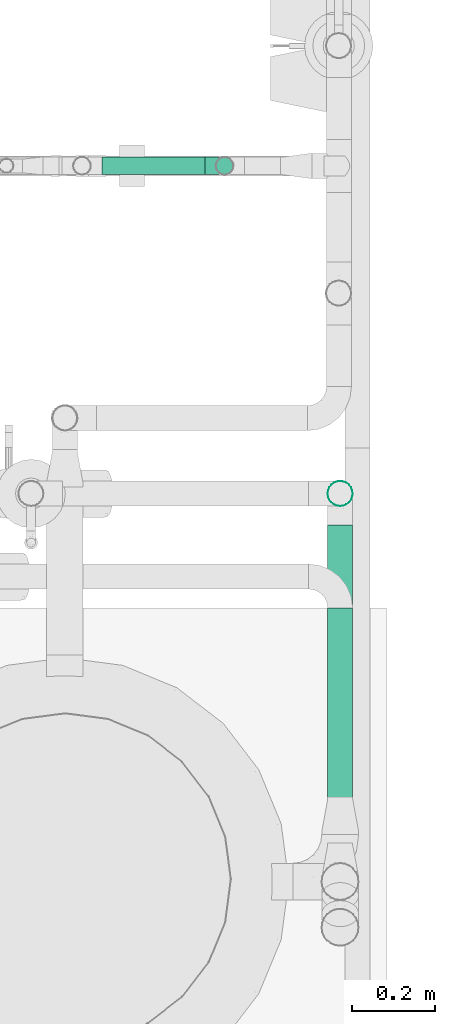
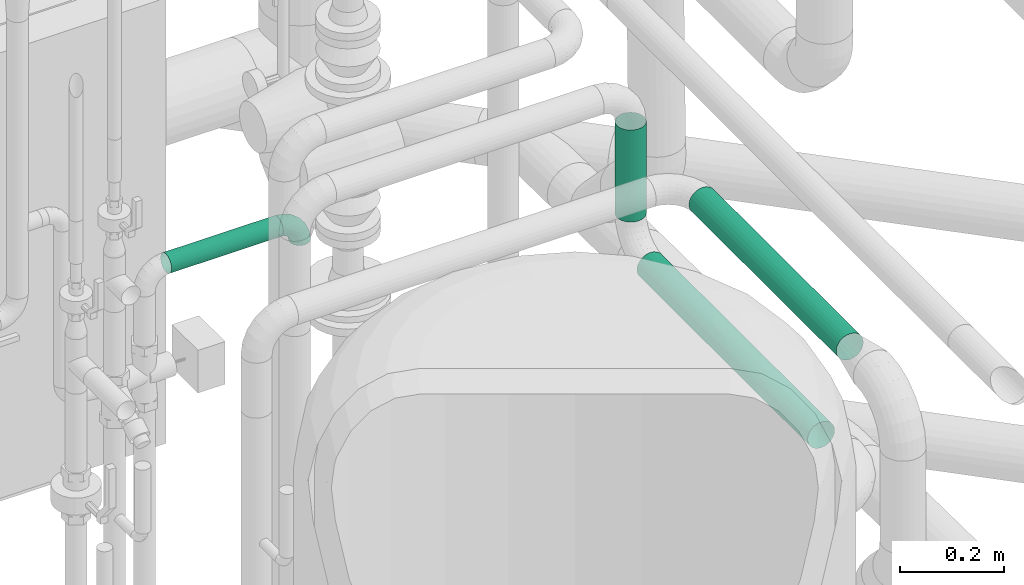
# One storey, part 284 of 374: 5 flow segments.
"""IFC2X3 building model written with IfcOpenShell, lengths in metres."""

from ifc_helpers import new_model, si_unit, direction, origin, place, context, subcontext, project, spatial, open_shell, surface_model, source, transform, mapped, element, save


model = new_model("IFC2X3")

# Units and contexts
model_context = context("Model", 3, precision=1e-05, world=origin(), true_north=direction((-0.4480736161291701, 0.8939966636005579)))
body_context = subcontext(model_context, "Body", "Model", "MODEL_VIEW")
ifc_project = project(units=[si_unit("LENGTHUNIT", "METRE"), si_unit("AREAUNIT", "SQUARE_METRE"), si_unit("VOLUMEUNIT", "CUBIC_METRE"), si_unit("PLANEANGLEUNIT", "RADIAN"), si_unit("THERMODYNAMICTEMPERATUREUNIT", "KELVIN"), si_unit("MASSUNIT", "GRAM", prefix="KILO"), si_unit("TIMEUNIT", "SECOND")], contexts=[model_context])

# Site, building, storey
site_placement = place(None, origin())
site = spatial("IfcSite", under=ifc_project, at=site_placement, Name="Site 1", CompositionType="ELEMENT")
building_placement = place(site_placement, origin())
building = spatial("IfcBuilding", under=site, at=building_placement, Name="Undefined", CompositionType="ELEMENT")
storey_placement = place(building_placement, origin())
storey = spatial("IfcBuildingStorey", under=building, at=storey_placement, Name="Rez de chauss\x8ee", CompositionType="ELEMENT", Elevation=0.0)

# Flow segments
shared_shape_1 = source(origin(), body_context, "Body", "SurfaceModel", [
    surface_model("IfcFaceBasedSurfaceModel", [(0.0, 0.007870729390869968, 7.105427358e-15), (0.0, 0.0, 0.0), (0.21585728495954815, 0.0, 7.105427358e-15), (0.21585728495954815, 0.007870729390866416, 7.105427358e-15), (0.0, -0.00760254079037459, -0.0020370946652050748), (0.21585728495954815, -0.007602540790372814, -0.00203709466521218), (0.0, -0.01441879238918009, -0.00597245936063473), (0.21585728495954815, -0.01441879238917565, -0.005972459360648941), (0.0, -0.019984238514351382, -0.011537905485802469), (0.21585728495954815, -0.019984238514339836, -0.011537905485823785), (0.0, -0.023919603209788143, -0.018354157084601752), (0.21585728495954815, -0.02391960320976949, -0.018354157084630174), (0.0, -0.025956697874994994, -0.025956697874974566), (0.21585728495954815, -0.025956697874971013, -0.025956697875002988), (0.0, -0.025956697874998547, -0.03382742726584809), (0.21585728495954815, -0.02595669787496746, -0.0338274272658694), (0.0, -0.02391960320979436, -0.041429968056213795), (0.21585728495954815, -0.02391960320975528, -0.04142996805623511), (0.0, -0.019984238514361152, -0.04824621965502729), (0.21585728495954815, -0.01998423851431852, -0.048246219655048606), (0.0, -0.01441879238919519, -0.05381166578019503), (0.21585728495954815, -0.014418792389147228, -0.053811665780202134), (0.0, -0.007602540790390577, -0.05774703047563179), (0.21585728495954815, -0.007602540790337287, -0.05774703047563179), (0.0, -1.7763568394e-14, -0.05978412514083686), (0.21585728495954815, 3.5527136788e-14, -0.05978412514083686), (0.0, 0.007870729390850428, -0.05978412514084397), (0.21585728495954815, 0.007870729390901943, -0.05978412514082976), (0.0, 0.015473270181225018, -0.057747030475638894), (0.21585728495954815, 0.015473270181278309, -0.05774703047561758), (0.0, 0.022289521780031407, -0.05381166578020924), (0.21585728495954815, 0.022289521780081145, -0.05381166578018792), (0.0, 0.027854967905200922, -0.048246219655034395), (0.21585728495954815, 0.02785496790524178, -0.04824621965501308), (0.0, 0.031790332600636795, -0.04142996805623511), (0.21585728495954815, 0.031790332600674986, -0.04142996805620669), (0.0, 0.033827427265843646, -0.0338274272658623), (0.21585728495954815, 0.03382742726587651, -0.033827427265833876), (0.0, 0.0338274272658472, -0.025956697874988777), (0.21585728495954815, 0.0338274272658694, -0.02595669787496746), (0.0, 0.0317903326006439, -0.01835415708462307), (0.21585728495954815, 0.031790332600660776, -0.018354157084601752), (0.0, 0.02785496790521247, -0.01153790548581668), (0.21585728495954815, 0.027854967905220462, -0.011537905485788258), (0.0, 0.022289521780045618, -0.005972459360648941), (0.21585728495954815, 0.022289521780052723, -0.005972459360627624), (0.0, 0.015473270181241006, -0.0020370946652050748), (0.21585728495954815, 0.015473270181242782, -0.002037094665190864)], [open_shell([[[0, 1, 2, 3]], [[1, 4, 5, 2]], [[4, 6, 7, 5]], [[6, 8, 9, 7]], [[8, 10, 11, 9]], [[10, 12, 13, 11]], [[12, 14, 15, 13]], [[14, 16, 17, 15]], [[16, 18, 19, 17]], [[18, 20, 21, 19]], [[20, 22, 23, 21]], [[22, 24, 25, 23]], [[24, 26, 27, 25]], [[26, 28, 29, 27]], [[28, 30, 31, 29]], [[30, 32, 33, 31]], [[32, 34, 35, 33]], [[34, 36, 37, 35]], [[36, 38, 39, 37]], [[38, 40, 41, 39]], [[40, 42, 43, 41]], [[42, 44, 45, 43]], [[44, 46, 47, 45]], [[46, 0, 3, 47]]])]),
])
flow_segment_1_placement = place(storey_placement, origin())
element("IfcFlowSegment", 1, at=flow_segment_1_placement, inside=storey, Name="Tube acier d'après DIN 2448", ObjectType="Tube acier d'après DIN 2448", context=body_context, shape_type="MappedRepresentation", body=[
    mapped(shared_shape_1, transform((55.03195322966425, 10.910233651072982, 1.983641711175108), x_axis=(0.0, 0.0, -1.0), y_axis=(0.13052619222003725, 0.9914448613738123, 0.0), z_axis=(0.9914448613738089, -0.13052619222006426, 0.0))),
])
shared_shape_2 = source(origin(), body_context, "Body", "SurfaceModel", [
    surface_model("IfcFaceBasedSurfaceModel", [(0.0, 0.007870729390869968, 7.105427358e-15), (0.0, 0.0, 0.0), (0.6557215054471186, 0.0, 0.0), (0.6557215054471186, 0.00787072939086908, 7.105427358e-15), (0.0, -0.00760254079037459, -0.0020370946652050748), (0.6557215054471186, -0.007602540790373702, -0.0020370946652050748), (0.0, -0.01441879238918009, -0.00597245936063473), (0.6557215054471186, -0.014418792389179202, -0.005972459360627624), (0.0, -0.019984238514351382, -0.011537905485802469), (0.6557215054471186, -0.019984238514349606, -0.011537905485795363), (0.0, -0.023919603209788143, -0.018354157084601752), (0.6557215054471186, -0.023919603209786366, -0.018354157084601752), (0.0, -0.025956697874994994, -0.025956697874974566), (0.6557215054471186, -0.025956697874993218, -0.02595669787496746), (0.0, -0.025956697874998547, -0.03382742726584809), (0.6557215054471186, -0.025956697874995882, -0.03382742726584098), (0.0, -0.02391960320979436, -0.041429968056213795), (0.6557215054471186, -0.023919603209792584, -0.04142996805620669), (0.0, -0.019984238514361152, -0.04824621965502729), (0.6557215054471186, -0.019984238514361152, -0.048246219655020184), (0.0, -0.01441879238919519, -0.05381166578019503), (0.6557215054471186, -0.014418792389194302, -0.05381166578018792), (0.0, -0.007602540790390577, -0.05774703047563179), (0.6557215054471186, -0.007602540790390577, -0.05774703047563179), (0.0, -1.7763568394e-14, -0.05978412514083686), (0.6557215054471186, -1.7763568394e-14, -0.05978412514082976), (0.0, 0.007870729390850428, -0.05978412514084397), (0.6557215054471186, 0.007870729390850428, -0.05978412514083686), (0.0, 0.015473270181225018, -0.057747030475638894), (0.6557215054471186, 0.015473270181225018, -0.05774703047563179), (0.0, 0.022289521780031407, -0.05381166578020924), (0.6557215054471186, 0.022289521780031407, -0.053811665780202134), (0.0, 0.027854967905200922, -0.048246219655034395), (0.6557215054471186, 0.02785496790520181, -0.04824621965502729), (0.0, 0.031790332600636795, -0.04142996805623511), (0.6557215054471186, 0.03179033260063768, -0.04142996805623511), (0.0, 0.033827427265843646, -0.0338274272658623), (0.6557215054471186, 0.03382742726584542, -0.03382742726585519), (0.0, 0.0338274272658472, -0.025956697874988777), (0.6557215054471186, 0.0338274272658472, -0.025956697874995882), (0.0, 0.0317903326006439, -0.01835415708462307), (0.6557215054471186, 0.03179033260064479, -0.018354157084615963), (0.0, 0.02785496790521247, -0.01153790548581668), (0.6557215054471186, 0.02785496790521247, -0.011537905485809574), (0.0, 0.022289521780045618, -0.005972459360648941), (0.6557215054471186, 0.022289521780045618, -0.005972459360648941), (0.0, 0.015473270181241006, -0.0020370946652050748), (0.6557215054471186, 0.015473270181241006, -0.0020370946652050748)], [open_shell([[[0, 1, 2, 3]], [[1, 4, 5, 2]], [[4, 6, 7, 5]], [[6, 8, 9, 7]], [[8, 10, 11, 9]], [[10, 12, 13, 11]], [[12, 14, 15, 13]], [[14, 16, 17, 15]], [[16, 18, 19, 17]], [[18, 20, 21, 19]], [[20, 22, 23, 21]], [[22, 24, 25, 23]], [[24, 26, 27, 25]], [[26, 28, 29, 27]], [[28, 30, 31, 29]], [[30, 32, 33, 31]], [[32, 34, 35, 33]], [[34, 36, 37, 35]], [[36, 38, 39, 37]], [[38, 40, 41, 39]], [[40, 42, 43, 41]], [[42, 44, 45, 43]], [[44, 46, 47, 45]], [[46, 0, 3, 47]]])]),
])
flow_segment_2_placement = place(storey_placement, origin())
element("IfcFlowSegment", 2, at=flow_segment_2_placement, inside=storey, Name="Tube acier d'après DIN 2448", ObjectType="Tube acier d'après DIN 2448", context=body_context, shape_type="MappedRepresentation", body=[
    mapped(shared_shape_2, transform((54.97370790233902, 10.842037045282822, 1.683981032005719), x_axis=(0.0, -1.0, 0.0), y_axis=(-0.13052619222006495, 0.0, 0.9914448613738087), z_axis=(-0.9914448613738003, 0.0, -0.13052619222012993))),
])
shared_shape_3 = source(origin(), body_context, "Body", "SurfaceModel", [
    surface_model("IfcFaceBasedSurfaceModel", [(0.0, 0.007870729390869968, 7.105427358e-15), (0.0, 0.0, 0.0), (0.5660378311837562, 1.776356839e-15, 0.0), (0.5660378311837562, 0.007870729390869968, 7.105427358e-15), (0.0, -0.00760254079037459, -0.0020370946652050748), (0.5660378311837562, -0.007602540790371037, -0.00203709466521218), (0.0, -0.01441879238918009, -0.00597245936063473), (0.5660378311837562, -0.01441879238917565, -0.005972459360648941), (0.0, -0.019984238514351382, -0.011537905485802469), (0.5660378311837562, -0.019984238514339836, -0.01153790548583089), (0.0, -0.023919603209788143, -0.018354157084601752), (0.5660378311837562, -0.02391960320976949, -0.018354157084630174), (0.0, -0.025956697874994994, -0.025956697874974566), (0.5660378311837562, -0.025956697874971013, -0.025956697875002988), (0.0, -0.025956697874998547, -0.03382742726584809), (0.5660378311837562, -0.025956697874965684, -0.0338274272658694), (0.0, -0.02391960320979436, -0.041429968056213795), (0.5660378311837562, -0.02391960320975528, -0.04142996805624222), (0.0, -0.019984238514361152, -0.04824621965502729), (0.5660378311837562, -0.01998423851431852, -0.048246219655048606), (0.0, -0.01441879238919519, -0.05381166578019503), (0.5660378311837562, -0.014418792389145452, -0.053811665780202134), (0.0, -0.007602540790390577, -0.05774703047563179), (0.5660378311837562, -0.007602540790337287, -0.057747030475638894), (0.0, -1.7763568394e-14, -0.05978412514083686), (0.5660378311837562, 3.5527136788e-14, -0.05978412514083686), (0.0, 0.007870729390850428, -0.05978412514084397), (0.5660378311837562, 0.007870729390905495, -0.05978412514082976), (0.0, 0.015473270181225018, -0.057747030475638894), (0.5660378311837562, 0.015473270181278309, -0.05774703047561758), (0.0, 0.022289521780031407, -0.05381166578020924), (0.5660378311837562, 0.02228952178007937, -0.05381166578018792), (0.0, 0.027854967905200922, -0.048246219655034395), (0.5660378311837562, 0.02785496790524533, -0.04824621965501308), (0.0, 0.031790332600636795, -0.04142996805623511), (0.5660378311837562, 0.031790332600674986, -0.04142996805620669), (0.0, 0.033827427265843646, -0.0338274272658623), (0.5660378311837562, 0.03382742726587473, -0.03382742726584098), (0.0, 0.0338274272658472, -0.025956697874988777), (0.5660378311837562, 0.03382742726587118, -0.02595669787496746), (0.0, 0.0317903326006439, -0.01835415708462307), (0.5660378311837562, 0.031790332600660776, -0.018354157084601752), (0.0, 0.02785496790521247, -0.01153790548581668), (0.5660378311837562, 0.02785496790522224, -0.011537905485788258), (0.0, 0.022289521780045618, -0.005972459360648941), (0.5660378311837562, 0.022289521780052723, -0.005972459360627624), (0.0, 0.015473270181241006, -0.0020370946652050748), (0.5660378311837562, 0.015473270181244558, -0.002037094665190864)], [open_shell([[[0, 1, 2, 3]], [[1, 4, 5, 2]], [[4, 6, 7, 5]], [[6, 8, 9, 7]], [[8, 10, 11, 9]], [[10, 12, 13, 11]], [[12, 14, 15, 13]], [[14, 16, 17, 15]], [[16, 18, 19, 17]], [[18, 20, 21, 19]], [[20, 22, 23, 21]], [[22, 24, 25, 23]], [[24, 26, 27, 25]], [[26, 28, 29, 27]], [[28, 30, 31, 29]], [[30, 32, 33, 31]], [[32, 34, 35, 33]], [[34, 36, 37, 35]], [[36, 38, 39, 37]], [[38, 40, 41, 39]], [[40, 42, 43, 41]], [[42, 44, 45, 43]], [[44, 46, 47, 45]], [[46, 0, 3, 47]]])]),
])
flow_segment_3_placement = place(storey_placement, origin())
element("IfcFlowSegment", 3, at=flow_segment_3_placement, inside=storey, Name="Tube acier d'après DIN 2448", ObjectType="Tube acier d'après DIN 2448", context=body_context, shape_type="MappedRepresentation", body=[
    mapped(shared_shape_3, transform((55.03195322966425, 10.075999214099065, 1.957788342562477), x_axis=(0.0, 1.0, 0.0), y_axis=(0.1305261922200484, 0.0, 0.9914448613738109), z_axis=(0.9914448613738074, 0.0, -0.13052619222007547))),
])
shared_shape_4 = source(origin(), body_context, "Body", "SurfaceModel", [
    surface_model("IfcFaceBasedSurfaceModel", [(0.01806482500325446, 7.105427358e-15, 0.0), (0.017970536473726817, 0.005533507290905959, 0.0), (9.428852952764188e-05, 0.005533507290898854, 0.0), (0.0, 0.0, 0.0), (-0.017172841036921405, 0.00613233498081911, -0.004587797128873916), (-0.01744928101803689, 0.0006051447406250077, -0.004636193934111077), (-0.03265412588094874, 0.007289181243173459, -0.013450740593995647), (-0.0330938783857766, 0.0017741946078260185, -0.013592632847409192), (-0.045294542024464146, 0.008925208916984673, -0.02598483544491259), (-0.045867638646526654, 0.0034274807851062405, -0.02625895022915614), (-0.054232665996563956, 0.010928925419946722, -0.041335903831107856), (-0.05490005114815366, 0.005452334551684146, -0.04177195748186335), (-0.05885937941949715, 0.013163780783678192, -0.05845779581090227), (-0.059575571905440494, 0.007710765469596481, -0.05907446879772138), (0.01769409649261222, 0.010875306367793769, -0.0014203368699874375), (0.00037072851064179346, 0.010875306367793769, -0.0014203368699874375), (-0.016362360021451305, 0.011455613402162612, -0.005866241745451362), (-0.03136483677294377, 0.012576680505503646, -0.014455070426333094), (-0.04361430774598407, 0.014162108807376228, -0.026601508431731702), (-0.05227599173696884, 0.016103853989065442, -0.0414777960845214), (-0.05675960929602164, 0.018269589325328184, -0.05807013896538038), (0.017254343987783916, 0.015661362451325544, -0.0041642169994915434), (0.0008104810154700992, 0.015661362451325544, -0.004164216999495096), (-0.01507307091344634, 0.016212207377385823, -0.008384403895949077), (-0.029313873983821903, 0.01727635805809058, -0.016537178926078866), (-0.04094144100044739, 0.01878129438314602, -0.02806694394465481), (-0.049163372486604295, 0.02062445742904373, -0.042187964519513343), (-0.05341935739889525, 0.02268023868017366, -0.05793791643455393), (0.016681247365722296, 0.01956551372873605, -0.008044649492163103), (0.001383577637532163, 0.01956551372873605, -0.008044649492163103), (-0.01339283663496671, 0.020077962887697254, -0.011970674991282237), (-0.026641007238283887, 0.021067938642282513, -0.01955517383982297), (-0.03745809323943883, 0.02246797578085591, -0.03028127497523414), (-0.04510692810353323, 0.0241826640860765, -0.04341801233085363), (-0.04906625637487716, 0.026095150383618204, -0.05807013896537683), (0.016013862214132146, 0.022321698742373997, -0.012797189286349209), (0.0020509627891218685, 0.022321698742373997, -0.012797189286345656), (-0.011436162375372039, 0.02278943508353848, -0.016380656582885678), (-0.023528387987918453, 0.02369303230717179, -0.023303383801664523), (-0.03340164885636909, 0.024970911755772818, -0.03309359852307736), (-0.040383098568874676, 0.026535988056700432, -0.04508411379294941), (-0.04399696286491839, 0.028281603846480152, -0.05845779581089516), (0.015297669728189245, 0.023742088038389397, -0.018097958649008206), (0.00276715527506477, 0.023742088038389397, -0.018097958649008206), (-0.009336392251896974, 0.024161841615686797, -0.021313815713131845), (-0.02018813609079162, 0.02497274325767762, -0.0275263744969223), (-0.029048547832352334, 0.02611953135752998, -0.03631225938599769), (-0.03531380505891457, 0.027524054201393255, -0.04707272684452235), (-0.0385569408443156, 0.02909059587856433, -0.05907446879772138), (0.014581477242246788, 0.023729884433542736, -0.02358571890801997), (0.0034833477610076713, 0.023729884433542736, -0.02358571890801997), (-0.007236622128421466, 0.024101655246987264, -0.026433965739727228), (-0.016847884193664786, 0.02481986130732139, -0.03193635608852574), (-0.02469544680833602, 0.02583555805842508, -0.03971791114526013), (-0.0302445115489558, 0.027079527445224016, -0.04924833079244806), (-0.03311691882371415, 0.02846699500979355, -0.059878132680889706), (0.013914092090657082, 0.02228591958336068, -0.02888648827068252), (0.004150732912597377, 0.022285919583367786, -0.028886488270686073), (-0.005279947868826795, 0.022612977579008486, -0.031392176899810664), (-0.013735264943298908, 0.023244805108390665, -0.03623279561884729), (-0.020639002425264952, 0.02413834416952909, -0.04307846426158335), (-0.025520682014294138, 0.025232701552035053, -0.051462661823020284), (-0.028047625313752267, 0.026453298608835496, -0.060814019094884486), (0.013340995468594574, 0.01950859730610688, -0.03363902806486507), (0.0047238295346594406, 0.01950859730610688, -0.033639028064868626), (-0.0035997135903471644, 0.019797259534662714, -0.035850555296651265), (-0.011062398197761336, 0.0203549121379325, -0.04012289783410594), (-0.017155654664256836, 0.021143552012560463, -0.04616490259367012), (-0.02146423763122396, 0.022109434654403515, -0.05356481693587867), (-0.02369452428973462, 0.023186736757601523, -0.06181834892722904), (0.012901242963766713, 0.015587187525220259, -0.037519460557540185), (0.005163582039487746, 0.015587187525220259, -0.03751946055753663), (-0.0023104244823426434, 0.015846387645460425, -0.03950526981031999), (-0.009011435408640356, 0.016347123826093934, -0.043341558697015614), (-0.01448278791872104, 0.017055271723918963, -0.048766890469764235), (-0.018351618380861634, 0.017922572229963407, -0.05541153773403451), (-0.02035427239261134, 0.018889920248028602, -0.06282267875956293), (0.012624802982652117, 0.010788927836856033, -0.040263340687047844), (0.005440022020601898, 0.010788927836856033, -0.0402633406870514), (-0.0014999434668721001, 0.011029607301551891, -0.04210725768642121), (-0.007722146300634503, 0.01149456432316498, -0.045669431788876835), (-0.012802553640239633, 0.012152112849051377, -0.05070710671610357), (-0.0163949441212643, 0.012957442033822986, -0.056876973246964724), (-0.018254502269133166, 0.013855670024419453, -0.06375856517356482), (0.012530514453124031, 0.005440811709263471, -0.041683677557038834), (0.005534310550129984, 0.0054408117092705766, -0.041683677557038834), (-0.0012235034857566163, 0.005675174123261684, -0.04347919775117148), (-0.007282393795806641, 0.006127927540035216, -0.046947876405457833), (-0.012229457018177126, 0.0067682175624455, -0.05185332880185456), (-0.015727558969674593, 0.007552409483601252, -0.05786125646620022), (-0.01753830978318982, 0.008427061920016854, -0.0645622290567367), (0.012624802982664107, -9.269558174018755e-05, -0.041683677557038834), (0.0054400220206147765, -9.26955817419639e-05, -0.04168367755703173), (-0.0014999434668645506, 0.00014798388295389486, -0.043527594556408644), (-0.007722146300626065, 0.0006129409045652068, -0.04708976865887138), (-0.012802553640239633, 0.001270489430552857, -0.05212744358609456), (-0.0163949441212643, 0.002075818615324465, -0.058297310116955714), (-0.018254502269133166, 0.0029740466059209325, -0.06517890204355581), (0.012901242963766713, -0.005434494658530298, -0.0402633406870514), (0.005163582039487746, -0.005434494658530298, -0.040263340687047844), (-0.0023104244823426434, -0.005175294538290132, -0.0422491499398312), (-0.009011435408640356, -0.004674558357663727, -0.046085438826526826), (-0.01448278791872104, -0.0039664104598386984, -0.051510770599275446), (-0.018351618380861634, -0.0030991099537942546, -0.05815541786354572), (-0.02035427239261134, -0.0021317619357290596, -0.06556655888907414), (0.013340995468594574, -0.010220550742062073, -0.03751946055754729), (0.0047238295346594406, -0.010220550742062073, -0.03751946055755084), (-0.0035997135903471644, -0.009931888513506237, -0.03973098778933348), (-0.011062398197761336, -0.009374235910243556, -0.04400333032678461), (-0.017155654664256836, -0.00858559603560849, -0.05004533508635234), (-0.02146423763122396, -0.007619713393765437, -0.057445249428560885), (-0.02369452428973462, -0.006542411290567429, -0.06569878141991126), (0.013914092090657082, -0.01412470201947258, -0.03363902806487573), (0.004150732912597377, -0.014124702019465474, -0.033639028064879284), (-0.005279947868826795, -0.013797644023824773, -0.036144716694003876), (-0.013735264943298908, -0.013165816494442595, -0.0409853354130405), (-0.020639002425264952, -0.012272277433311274, -0.04783100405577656), (-0.025520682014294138, -0.011177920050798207, -0.05621520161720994), (-0.028047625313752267, -0.009957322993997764, -0.0655665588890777), (0.014581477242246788, -0.01688088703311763, -0.028886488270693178), (0.0034833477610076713, -0.01688088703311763, -0.028886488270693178), (-0.007236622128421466, -0.016509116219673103, -0.031734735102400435), (-0.016847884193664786, -0.015790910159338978, -0.03723712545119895), (-0.02469544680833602, -0.014775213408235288, -0.04501868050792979), (-0.0302445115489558, -0.01353124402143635, -0.054549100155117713), (-0.03311691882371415, -0.012143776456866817, -0.06517890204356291), (0.015297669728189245, -0.01830127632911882, -0.02358571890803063), (0.00276715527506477, -0.01830127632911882, -0.02358571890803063), (-0.009336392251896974, -0.01788152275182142, -0.026801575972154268), (-0.02018813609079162, -0.017070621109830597, -0.033014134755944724), (-0.029048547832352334, -0.01592383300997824, -0.04180001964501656), (-0.03531380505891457, -0.014519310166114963, -0.05256048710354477), (-0.0385569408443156, -0.012952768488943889, -0.06456222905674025), (0.016013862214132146, -0.01828907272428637, -0.018097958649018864), (0.0020509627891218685, -0.01828907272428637, -0.018097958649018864), (-0.011436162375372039, -0.01782133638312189, -0.021681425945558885), (-0.023528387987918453, -0.016917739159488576, -0.02860415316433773), (-0.03340164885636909, -0.01563985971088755, -0.038394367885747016), (-0.040383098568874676, -0.014074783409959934, -0.05038488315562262), (-0.04399696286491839, -0.012329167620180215, -0.06375856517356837), (0.016681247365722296, -0.01684510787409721, -0.012797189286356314), (0.001383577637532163, -0.01684510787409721, -0.012797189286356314), (-0.01339283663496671, -0.016332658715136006, -0.01672321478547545), (-0.026641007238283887, -0.015342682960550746, -0.02430771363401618), (-0.03745809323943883, -0.01394264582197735, -0.03503381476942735), (-0.04510692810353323, -0.01222795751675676, -0.04817055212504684), (-0.04906625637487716, -0.010315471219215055, -0.06282267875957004), (0.017254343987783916, -0.014067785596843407, -0.008044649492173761), (0.0008104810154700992, -0.014067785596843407, -0.008044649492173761), (-0.01507307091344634, -0.013516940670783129, -0.012264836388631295), (-0.029313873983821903, -0.012452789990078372, -0.020417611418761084), (-0.04094144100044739, -0.010947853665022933, -0.03194737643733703), (-0.049163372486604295, -0.009104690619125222, -0.04606839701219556), (-0.05341935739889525, -0.007048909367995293, -0.06181834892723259), (0.01769409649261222, -0.010146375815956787, -0.004164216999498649), (0.00037072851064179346, -0.010146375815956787, -0.004164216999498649), (-0.016362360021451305, -0.009566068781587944, -0.008610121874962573), (-0.03136483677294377, -0.008445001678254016, -0.017198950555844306), (-0.04361430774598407, -0.006859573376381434, -0.029345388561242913), (-0.05227599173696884, -0.00491782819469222, -0.04422167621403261), (-0.05675960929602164, -0.002752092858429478, -0.060814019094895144), (0.017970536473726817, -0.0053481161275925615, -0.0014203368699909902), (9.428852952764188e-05, -0.005348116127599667, -0.001420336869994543), (-0.017172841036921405, -0.004749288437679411, -0.006008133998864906), (-0.03265412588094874, -0.0035924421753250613, -0.014871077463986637), (-0.045294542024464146, -0.001956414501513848, -0.02740517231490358), (-0.05423266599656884, 4.730200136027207e-05, -0.04275624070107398), (-0.05885937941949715, 0.002282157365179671, -0.05987813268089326)], [open_shell([[[0, 1, 2, 3]], [[3, 2, 4, 5]], [[5, 4, 6, 7]], [[7, 6, 8, 9]], [[9, 8, 10, 11]], [[11, 10, 12, 13]], [[1, 14, 15, 2]], [[2, 15, 16, 4]], [[4, 16, 17, 6]], [[6, 17, 18, 8]], [[8, 18, 19, 10]], [[10, 19, 20, 12]], [[14, 21, 22, 15]], [[15, 22, 23, 16]], [[16, 23, 24, 17]], [[17, 24, 25, 18]], [[18, 25, 26, 19]], [[19, 26, 27, 20]], [[21, 28, 29, 22]], [[22, 29, 30, 23]], [[23, 30, 31, 24]], [[24, 31, 32, 25]], [[25, 32, 33, 26]], [[26, 33, 34, 27]], [[28, 35, 36, 29]], [[29, 36, 37, 30]], [[30, 37, 38, 31]], [[31, 38, 39, 32]], [[32, 39, 40, 33]], [[33, 40, 41, 34]], [[35, 42, 43, 36]], [[36, 43, 44, 37]], [[37, 44, 45, 38]], [[38, 45, 46, 39]], [[39, 46, 47, 40]], [[40, 47, 48, 41]], [[42, 49, 50, 43]], [[43, 50, 51, 44]], [[44, 51, 52, 45]], [[45, 52, 53, 46]], [[46, 53, 54, 47]], [[47, 54, 55, 48]], [[49, 56, 57, 50]], [[50, 57, 58, 51]], [[51, 58, 59, 52]], [[52, 59, 60, 53]], [[53, 60, 61, 54]], [[54, 61, 62, 55]], [[56, 63, 64, 57]], [[57, 64, 65, 58]], [[58, 65, 66, 59]], [[59, 66, 67, 60]], [[60, 67, 68, 61]], [[61, 68, 69, 62]], [[63, 70, 71, 64]], [[64, 71, 72, 65]], [[65, 72, 73, 66]], [[66, 73, 74, 67]], [[67, 74, 75, 68]], [[68, 75, 76, 69]], [[70, 77, 78, 71]], [[71, 78, 79, 72]], [[72, 79, 80, 73]], [[73, 80, 81, 74]], [[74, 81, 82, 75]], [[75, 82, 83, 76]], [[77, 84, 85, 78]], [[78, 85, 86, 79]], [[79, 86, 87, 80]], [[80, 87, 88, 81]], [[81, 88, 89, 82]], [[82, 89, 90, 83]], [[84, 91, 92, 85]], [[85, 92, 93, 86]], [[86, 93, 94, 87]], [[87, 94, 95, 88]], [[88, 95, 96, 89]], [[89, 96, 97, 90]], [[91, 98, 99, 92]], [[92, 99, 100, 93]], [[93, 100, 101, 94]], [[94, 101, 102, 95]], [[95, 102, 103, 96]], [[96, 103, 104, 97]], [[98, 105, 106, 99]], [[99, 106, 107, 100]], [[100, 107, 108, 101]], [[101, 108, 109, 102]], [[102, 109, 110, 103]], [[103, 110, 111, 104]], [[105, 112, 113, 106]], [[106, 113, 114, 107]], [[107, 114, 115, 108]], [[108, 115, 116, 109]], [[109, 116, 117, 110]], [[110, 117, 118, 111]], [[112, 119, 120, 113]], [[113, 120, 121, 114]], [[114, 121, 122, 115]], [[115, 122, 123, 116]], [[116, 123, 124, 117]], [[117, 124, 125, 118]], [[119, 126, 127, 120]], [[120, 127, 128, 121]], [[121, 128, 129, 122]], [[122, 129, 130, 123]], [[123, 130, 131, 124]], [[124, 131, 132, 125]], [[126, 133, 134, 127]], [[127, 134, 135, 128]], [[128, 135, 136, 129]], [[129, 136, 137, 130]], [[130, 137, 138, 131]], [[131, 138, 139, 132]], [[133, 140, 141, 134]], [[134, 141, 142, 135]], [[135, 142, 143, 136]], [[136, 143, 144, 137]], [[137, 144, 145, 138]], [[138, 145, 146, 139]], [[140, 147, 148, 141]], [[141, 148, 149, 142]], [[142, 149, 150, 143]], [[143, 150, 151, 144]], [[144, 151, 152, 145]], [[145, 152, 153, 146]], [[147, 154, 155, 148]], [[148, 155, 156, 149]], [[149, 156, 157, 150]], [[150, 157, 158, 151]], [[151, 158, 159, 152]], [[152, 159, 160, 153]], [[154, 161, 162, 155]], [[155, 162, 163, 156]], [[156, 163, 164, 157]], [[157, 164, 165, 158]], [[158, 165, 166, 159]], [[159, 166, 167, 160]], [[161, 0, 3, 162]], [[162, 3, 5, 163]], [[163, 5, 7, 164]], [[164, 7, 9, 165]], [[165, 9, 11, 166]], [[166, 11, 13, 167]]])]),
])
flow_segment_4_placement = place(storey_placement, origin())
element("IfcFlowSegment", 4, at=flow_segment_4_placement, inside=storey, Name="Tube coudé", ObjectType="Tube coudé", context=body_context, shape_type="MappedRepresentation", body=[
    mapped(shared_shape_4, transform((54.74329066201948, 11.708084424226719, 1.3429242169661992), x_axis=(0.130526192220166, 0.0, -0.9914448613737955), y_axis=(-0.12832103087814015, 0.9915887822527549, -0.016893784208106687), z_axis=(0.9831056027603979, 0.1294283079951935, 0.12942830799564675))),
])
shared_shape_5 = source(origin(), body_context, "Body", "SurfaceModel", [
    surface_model("IfcFaceBasedSurfaceModel", [(0.0, 0.005534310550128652, 0.0), (0.0, 0.0, 0.0), (0.24787713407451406, 0.0, 0.0), (0.24787713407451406, 0.005534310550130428, -1.776356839e-15), (0.0, -0.00534573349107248, -0.0014323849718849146), (0.24787713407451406, -0.005345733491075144, -0.0014323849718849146), (0.0, -0.010138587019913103, -0.004199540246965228), (0.24787713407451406, -0.010138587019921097, -0.004199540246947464), (0.0, -0.01405193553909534, -0.008112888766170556), (0.24787713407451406, -0.01405193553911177, -0.008112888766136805), (0.0, -0.016819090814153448, -0.012905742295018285), (0.24787713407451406, -0.01681909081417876, -0.012905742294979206), (0.0, -0.018251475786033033, -0.018251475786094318), (0.24787713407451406, -0.01825147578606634, -0.01825147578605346), (0.0, -0.0182514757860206, -0.02378578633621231), (0.24787713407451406, -0.018251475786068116, -0.02378578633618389), (0.0, -0.01681909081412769, -0.029131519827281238), (0.24787713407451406, -0.016819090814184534, -0.029131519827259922), (0.0, -0.014051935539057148, -0.03392437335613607), (0.24787713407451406, -0.014051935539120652, -0.0339243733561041), (0.0, -0.010138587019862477, -0.037837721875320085), (0.24787713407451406, -0.010138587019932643, -0.037837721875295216), (0.0, -0.005345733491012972, -0.040604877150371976), (0.24787713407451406, -0.005345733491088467, -0.04060487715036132), (0.0, 6.4837024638e-14, -0.042037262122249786), (0.24787713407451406, -1.4654943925e-14, -0.04203726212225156), (0.0, 0.005534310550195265, -0.04203726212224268), (0.24787713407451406, 0.005534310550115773, -0.04203726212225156), (0.0, 0.010880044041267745, -0.04060487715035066), (0.24787713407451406, 0.010880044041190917, -0.04060487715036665), (0.0, 0.01567289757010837, -0.03783772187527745), (0.24787713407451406, 0.01567289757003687, -0.0378377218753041), (0.0, 0.019586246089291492, -0.033924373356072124), (0.24787713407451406, 0.019586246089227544, -0.03392437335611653), (0.0, 0.0223534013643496, -0.029131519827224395), (0.24787713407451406, 0.022353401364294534, -0.029131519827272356), (0.0, 0.02378578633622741, -0.023785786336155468), (0.24787713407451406, 0.02378578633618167, -0.0237857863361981), (0.0, 0.023785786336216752, -0.01825147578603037), (0.24787713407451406, 0.02378578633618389, -0.018251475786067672), (0.0, 0.022353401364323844, -0.012905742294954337), (0.24787713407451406, 0.022353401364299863, -0.012905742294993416), (0.0, 0.019586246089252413, -0.008112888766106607), (0.24787713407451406, 0.019586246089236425, -0.008112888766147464), (0.0, 0.015672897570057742, -0.004199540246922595), (0.24787713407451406, 0.015672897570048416, -0.004199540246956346), (0.0, 0.010880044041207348, -0.0014323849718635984), (0.24787713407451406, 0.010880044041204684, -0.0014323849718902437)], [open_shell([[[0, 1, 2, 3]], [[1, 4, 5, 2]], [[4, 6, 7, 5]], [[6, 8, 9, 7]], [[8, 10, 11, 9]], [[10, 12, 13, 11]], [[12, 14, 15, 13]], [[14, 16, 17, 15]], [[16, 18, 19, 17]], [[18, 20, 21, 19]], [[20, 22, 23, 21]], [[22, 24, 25, 23]], [[24, 26, 27, 25]], [[26, 28, 29, 27]], [[28, 30, 31, 29]], [[30, 32, 33, 31]], [[32, 34, 35, 33]], [[34, 36, 37, 35]], [[36, 38, 39, 37]], [[38, 40, 41, 39]], [[40, 42, 43, 41]], [[42, 44, 45, 43]], [[44, 46, 47, 45]], [[46, 0, 3, 47]]])]),
])
flow_segment_5_placement = place(storey_placement, origin())
element("IfcFlowSegment", 5, at=flow_segment_5_placement, inside=storey, Name="Tube acier d'après DIN 2448", ObjectType="Tube acier d'après DIN 2448", context=body_context, shape_type="MappedRepresentation", body=[
    mapped(shared_shape_5, transform((54.67644859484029, 11.728562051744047, 1.3675269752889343), x_axis=(-1.0, 0.0, 0.0), y_axis=(0.0, 0.13052619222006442, 0.9914448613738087), z_axis=(0.0, 0.9914448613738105, -0.13052619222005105))),
])

save(model, "model.ifc")
